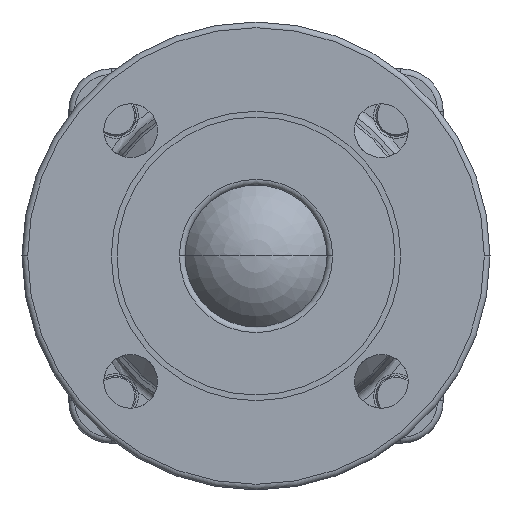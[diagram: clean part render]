
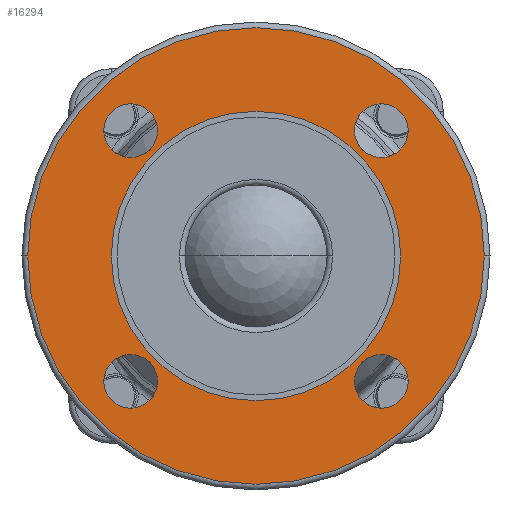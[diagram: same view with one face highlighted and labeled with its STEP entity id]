
A CAD part, left-side view. The second image highlights one B-rep face of the part: STEP entity #16294.
In plain terms, the highlighted planar face has unit normal (-1, 0, 0).
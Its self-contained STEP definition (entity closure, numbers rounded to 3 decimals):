
#57=CARTESIAN_POINT('',(-108.,0.,0.));
#58=DIRECTION('',(1.,0.,0.));
#59=DIRECTION('',(0.,1.,0.));
#60=AXIS2_PLACEMENT_3D('',#57,#58,#59);
#62=CARTESIAN_POINT('',(-108.,0.,0.));
#63=DIRECTION('',(1.,0.,0.));
#64=DIRECTION('',(0.,-1.,0.));
#65=AXIS2_PLACEMENT_3D('',#62,#63,#64);
#67=CARTESIAN_POINT('',(-108.,0.,0.));
#68=DIRECTION('',(-1.,0.,0.));
#69=DIRECTION('',(0.,1.,0.));
#70=AXIS2_PLACEMENT_3D('',#67,#68,#69);
#72=CARTESIAN_POINT('',(-108.,0.,0.));
#73=DIRECTION('',(-1.,0.,0.));
#74=DIRECTION('',(0.,-1.,0.));
#75=AXIS2_PLACEMENT_3D('',#72,#73,#74);
#77=CARTESIAN_POINT('',(-108.,-44.194,-44.194));
#78=DIRECTION('',(-1.,0.,0.));
#79=DIRECTION('',(0.,-1.,0.));
#80=AXIS2_PLACEMENT_3D('',#77,#78,#79);
#82=CARTESIAN_POINT('',(-108.,-44.194,-44.194));
#83=DIRECTION('',(-1.,0.,0.));
#84=DIRECTION('',(0.,1.,0.));
#85=AXIS2_PLACEMENT_3D('',#82,#83,#84);
#87=CARTESIAN_POINT('',(-108.,44.194,-44.194));
#88=DIRECTION('',(-1.,0.,0.));
#89=DIRECTION('',(0.,0.,-1.));
#90=AXIS2_PLACEMENT_3D('',#87,#88,#89);
#92=CARTESIAN_POINT('',(-108.,44.194,-44.194));
#93=DIRECTION('',(-1.,0.,0.));
#94=DIRECTION('',(0.,0.,1.));
#95=AXIS2_PLACEMENT_3D('',#92,#93,#94);
#97=CARTESIAN_POINT('',(-108.,44.194,44.194));
#98=DIRECTION('',(-1.,0.,0.));
#99=DIRECTION('',(0.,1.,0.));
#100=AXIS2_PLACEMENT_3D('',#97,#98,#99);
#102=CARTESIAN_POINT('',(-108.,44.194,44.194));
#103=DIRECTION('',(-1.,0.,0.));
#104=DIRECTION('',(0.,-1.,0.));
#105=AXIS2_PLACEMENT_3D('',#102,#103,#104);
#107=CARTESIAN_POINT('',(-108.,-44.194,44.194));
#108=DIRECTION('',(-1.,0.,0.));
#109=DIRECTION('',(0.,0.,1.));
#110=AXIS2_PLACEMENT_3D('',#107,#108,#109);
#112=CARTESIAN_POINT('',(-108.,-44.194,44.194));
#113=DIRECTION('',(-1.,0.,0.));
#114=DIRECTION('',(0.,0.,-1.));
#115=AXIS2_PLACEMENT_3D('',#112,#113,#114);
#12857=CARTESIAN_POINT('',(-108.,-51.,0.));
#12858=VERTEX_POINT('',#12857);
#12859=CARTESIAN_POINT('',(-108.,51.,0.));
#12860=VERTEX_POINT('',#12859);
#12861=CARTESIAN_POINT('',(-108.,80.5,0.));
#12862=CARTESIAN_POINT('',(-108.,-80.5,0.));
#12863=VERTEX_POINT('',#12861);
#12864=VERTEX_POINT('',#12862);
#12865=CARTESIAN_POINT('',(-108.,-53.694,-44.194));
#12866=CARTESIAN_POINT('',(-108.,-34.694,-44.194));
#12867=VERTEX_POINT('',#12865);
#12868=VERTEX_POINT('',#12866);
#12869=CARTESIAN_POINT('',(-108.,44.194,-53.694));
#12870=CARTESIAN_POINT('',(-108.,44.194,-34.694));
#12871=VERTEX_POINT('',#12869);
#12872=VERTEX_POINT('',#12870);
#12873=CARTESIAN_POINT('',(-108.,53.694,44.194));
#12874=CARTESIAN_POINT('',(-108.,34.694,44.194));
#12875=VERTEX_POINT('',#12873);
#12876=VERTEX_POINT('',#12874);
#12877=CARTESIAN_POINT('',(-108.,-44.194,53.694));
#12878=CARTESIAN_POINT('',(-108.,-44.194,34.694));
#12879=VERTEX_POINT('',#12877);
#12880=VERTEX_POINT('',#12878);
#16255=CARTESIAN_POINT('',(-108.,0.,0.));
#16256=DIRECTION('',(1.,0.,0.));
#16257=DIRECTION('',(0.,1.,0.));
#16258=AXIS2_PLACEMENT_3D('',#16255,#16256,#16257);
#16259=PLANE('',#16258);
#16261=ORIENTED_EDGE('',*,*,#16260,.T.);
#16263=ORIENTED_EDGE('',*,*,#16262,.T.);
#16264=EDGE_LOOP('',(#16261,#16263));
#16265=FACE_OUTER_BOUND('',#16264,.F.);
#16266=ORIENTED_EDGE('',*,*,#16248,.T.);
#16267=ORIENTED_EDGE('',*,*,#16237,.T.);
#16268=EDGE_LOOP('',(#16266,#16267));
#16269=FACE_BOUND('',#16268,.F.);
#16271=ORIENTED_EDGE('',*,*,#16270,.T.);
#16273=ORIENTED_EDGE('',*,*,#16272,.T.);
#16274=EDGE_LOOP('',(#16271,#16273));
#16275=FACE_BOUND('',#16274,.F.);
#16277=ORIENTED_EDGE('',*,*,#16276,.T.);
#16279=ORIENTED_EDGE('',*,*,#16278,.T.);
#16280=EDGE_LOOP('',(#16277,#16279));
#16281=FACE_BOUND('',#16280,.F.);
#16283=ORIENTED_EDGE('',*,*,#16282,.T.);
#16285=ORIENTED_EDGE('',*,*,#16284,.T.);
#16286=EDGE_LOOP('',(#16283,#16285));
#16287=FACE_BOUND('',#16286,.F.);
#16289=ORIENTED_EDGE('',*,*,#16288,.T.);
#16291=ORIENTED_EDGE('',*,*,#16290,.T.);
#16292=EDGE_LOOP('',(#16289,#16291));
#16293=FACE_BOUND('',#16292,.F.);
#16294=ADVANCED_FACE('',(#16265,#16269,#16275,#16281,#16287,#16293),#16259,.F.);
#61=CIRCLE('',#60,80.5);
#66=CIRCLE('',#65,80.5);
#71=CIRCLE('',#70,51.);
#76=CIRCLE('',#75,51.);
#81=CIRCLE('',#80,9.5);
#86=CIRCLE('',#85,9.5);
#91=CIRCLE('',#90,9.5);
#96=CIRCLE('',#95,9.5);
#101=CIRCLE('',#100,9.5);
#106=CIRCLE('',#105,9.5);
#111=CIRCLE('',#110,9.5);
#116=CIRCLE('',#115,9.5);
#16237=EDGE_CURVE('',#12858,#12860,#76,.T.);
#16248=EDGE_CURVE('',#12860,#12858,#71,.T.);
#16260=EDGE_CURVE('',#12863,#12864,#61,.T.);
#16262=EDGE_CURVE('',#12864,#12863,#66,.T.);
#16270=EDGE_CURVE('',#12867,#12868,#81,.T.);
#16272=EDGE_CURVE('',#12868,#12867,#86,.T.);
#16276=EDGE_CURVE('',#12871,#12872,#91,.T.);
#16278=EDGE_CURVE('',#12872,#12871,#96,.T.);
#16282=EDGE_CURVE('',#12875,#12876,#101,.T.);
#16284=EDGE_CURVE('',#12876,#12875,#106,.T.);
#16288=EDGE_CURVE('',#12879,#12880,#111,.T.);
#16290=EDGE_CURVE('',#12880,#12879,#116,.T.);
